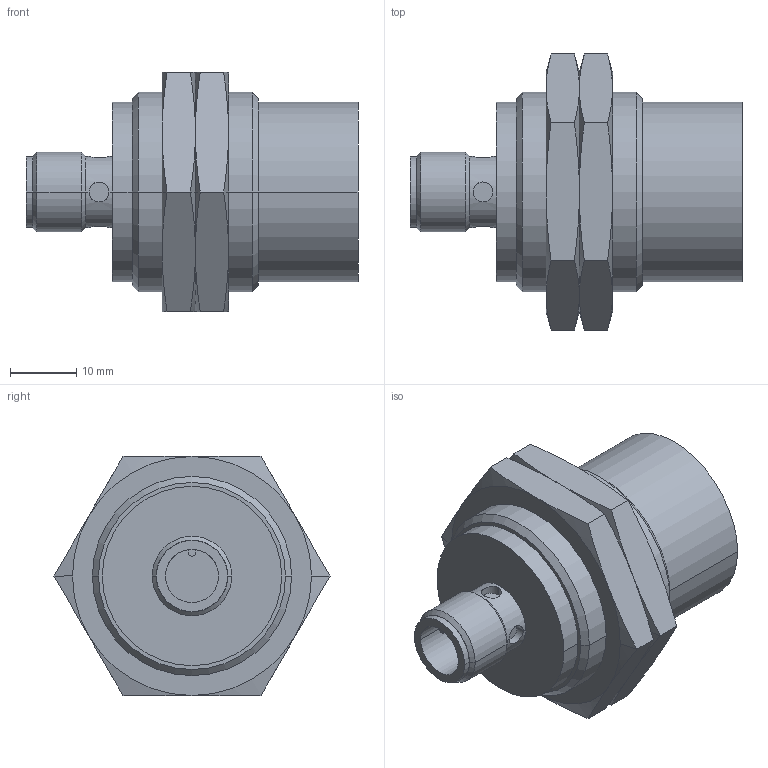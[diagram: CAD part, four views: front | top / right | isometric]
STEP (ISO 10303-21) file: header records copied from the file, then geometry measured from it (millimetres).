
FILE_DESCRIPTION( ( '' ), '1' );
FILE_NAME( '//partserver001.servicenet/client_exchange/iodir/jobs/output/wkb10615548_no0/STEP/iit21a_2_03.stp', '2008-05-16T08:47:44', ( '' ), ( '' ), ' ', ' ', ' ' );
FILE_SCHEMA( ( 'CONFIG_CONTROL_DESIGN' ) );
Length unit declared in the file: millimetre
Products named in the file (3): 1; 2; 3
Bounding box: 50 x 41.57 x 36 mm (x, y, z)
Volume: 29204.4 mm3; surface area: 9219.3 mm2
Topology: 3 solids, 3 shells, 106 faces, 228 edges, 136 vertices
Faces by surface type: cone 48, plane 31, cylinder 27
Entity records: 3116 total; most frequent: CARTESIAN_POINT 773, DIRECTION 482, ORIENTED_EDGE 456, EDGE_CURVE 228, AXIS2_PLACEMENT_3D 205, VERTEX_POINT 136, EDGE_LOOP 118, ADVANCED_FACE 106
